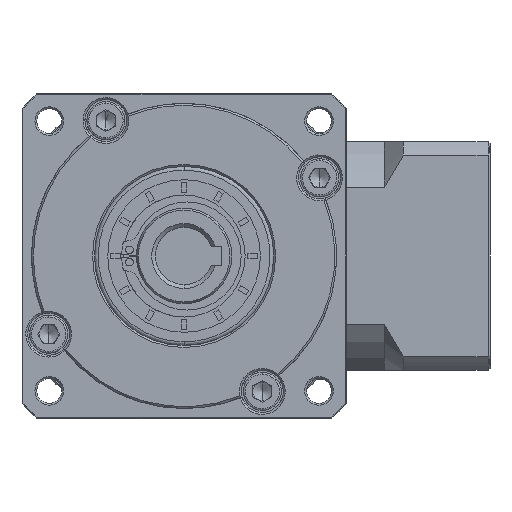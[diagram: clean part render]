
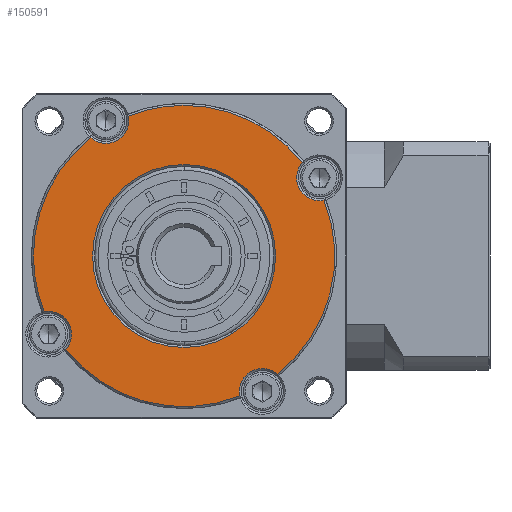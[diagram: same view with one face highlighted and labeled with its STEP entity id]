
A CAD part, left-side view. The second image highlights one B-rep face of the part: STEP entity #150591.
In plain terms, the highlighted planar face has unit normal (-1, 0, 0).
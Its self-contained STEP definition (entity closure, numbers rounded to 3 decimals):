
#295 = CIRCLE ( 'NONE', #50551, 39.5 ) ;
#404 = DIRECTION ( 'NONE',  ( 0., 1., 0. ) ) ;
#2433 = DIRECTION ( 'NONE',  ( 1., 0., 0. ) ) ;
#3415 = EDGE_CURVE ( 'NONE', #122488, #144629, #79913, .T. ) ;
#3803 = ORIENTED_EDGE ( 'NONE', *, *, #90186, .T. ) ;
#4569 = CIRCLE ( 'NONE', #17994, 24. ) ;
#5239 = CARTESIAN_POINT ( 'NONE',  ( -83.108, -21.383, -119.695 ) ) ;
#5846 = CARTESIAN_POINT ( 'NONE',  ( -83.108, -6.764, -83. ) ) ;
#6759 = CARTESIAN_POINT ( 'NONE',  ( -83.108, -0.883, -84.188 ) ) ;
#8598 = ORIENTED_EDGE ( 'NONE', *, *, #14218, .T. ) ;
#9233 = ORIENTED_EDGE ( 'NONE', *, *, #156209, .T. ) ;
#10084 = EDGE_CURVE ( 'NONE', #105159, #13395, #96993, .T. ) ;
#10895 = AXIS2_PLACEMENT_3D ( 'NONE', #5239, #95563, #18257 ) ;
#11247 = CARTESIAN_POINT ( 'NONE',  ( -83.108, -21.383, -119.695 ) ) ;
#12804 = VERTEX_POINT ( 'NONE', #53955 ) ;
#13395 = VERTEX_POINT ( 'NONE', #75976 ) ;
#14034 = CARTESIAN_POINT ( 'NONE',  ( -83.108, -58.078, -105.076 ) ) ;
#14049 = CARTESIAN_POINT ( 'NONE',  ( -83.108, 18.117, -119.695 ) ) ;
#14218 = EDGE_CURVE ( 'NONE', #81611, #122488, #149004, .T. ) ;
#16183 = CARTESIAN_POINT ( 'NONE',  ( -83.108, -0.883, -84.188 ) ) ;
#16839 = ORIENTED_EDGE ( 'NONE', *, *, #70298, .F. ) ;
#17994 = AXIS2_PLACEMENT_3D ( 'NONE', #11247, #101526, #24227 ) ;
#18257 = DIRECTION ( 'NONE',  ( 0., -1., 0. ) ) ;
#19253 = EDGE_CURVE ( 'NONE', #13395, #144629, #97629, .T. ) ;
#19788 = DIRECTION ( 'NONE',  ( 0., 0., -1. ) ) ;
#21750 = VERTEX_POINT ( 'NONE', #29072 ) ;
#24227 = DIRECTION ( 'NONE',  ( 0., -1., 0. ) ) ;
#25962 = VERTEX_POINT ( 'NONE', #125134 ) ;
#28557 = EDGE_CURVE ( 'NONE', #105159, #35813, #28982, .T. ) ;
#28853 = CIRCLE ( 'NONE', #82095, 39.5 ) ;
#28982 = CIRCLE ( 'NONE', #68847, 6. ) ;
#29072 = CARTESIAN_POINT ( 'NONE',  ( -83.108, 9.625, -144.165 ) ) ;
#29098 = EDGE_CURVE ( 'NONE', #40029, #12804, #295, .T. ) ;
#29153 = DIRECTION ( 'NONE',  ( 0., 0., -1. ) ) ;
#31024 = AXIS2_PLACEMENT_3D ( 'NONE', #117788, #40527, #130617 ) ;
#31069 = ORIENTED_EDGE ( 'NONE', *, *, #10084, .F. ) ;
#33444 = CARTESIAN_POINT ( 'NONE',  ( -83.108, -56.89, -105.195 ) ) ;
#35509 = CIRCLE ( 'NONE', #46092, 6. ) ;
#35693 = CARTESIAN_POINT ( 'NONE',  ( -83.108, -41.883, -155.202 ) ) ;
#35813 = VERTEX_POINT ( 'NONE', #161754 ) ;
#36277 = FACE_OUTER_BOUND ( 'NONE', #73748, .T. ) ;
#37088 = DIRECTION ( 'NONE',  ( 1., 0., 0. ) ) ;
#37400 = VERTEX_POINT ( 'NONE', #112506 ) ;
#39237 = EDGE_LOOP ( 'NONE', ( #3803, #139623 ) ) ;
#39755 = CARTESIAN_POINT ( 'NONE',  ( -83.108, -52.391, -95.225 ) ) ;
#40029 = VERTEX_POINT ( 'NONE', #14049 ) ;
#40527 = DIRECTION ( 'NONE',  ( 1., 0., 0. ) ) ;
#42582 = EDGE_CURVE ( 'NONE', #130841, #21750, #66112, .T. ) ;
#43374 = VERTEX_POINT ( 'NONE', #106322 ) ;
#46092 = AXIS2_PLACEMENT_3D ( 'NONE', #35693, #125820, #48682 ) ;
#46220 = AXIS2_PLACEMENT_3D ( 'NONE', #114369, #37088, #127221 ) ;
#46622 = DIRECTION ( 'NONE',  ( 1., 0., 0. ) ) ;
#48401 = EDGE_CURVE ( 'NONE', #130841, #115650, #35509, .T. ) ;
#48682 = DIRECTION ( 'NONE',  ( 0., 0., -1. ) ) ;
#50551 = AXIS2_PLACEMENT_3D ( 'NONE', #136146, #59061, #149136 ) ;
#51045 = CARTESIAN_POINT ( 'NONE',  ( -83.108, -21.383, -119.695 ) ) ;
#52140 = CIRCLE ( 'NONE', #162828, 39.5 ) ;
#53955 = CARTESIAN_POINT ( 'NONE',  ( -83.108, 3.087, -88.687 ) ) ;
#55172 = AXIS2_PLACEMENT_3D ( 'NONE', #140403, #63366, #153384 ) ;
#57120 = DIRECTION ( 'NONE',  ( 1., 0., 0. ) ) ;
#59061 = DIRECTION ( 'NONE',  ( 1., 0., 0. ) ) ;
#60695 = ORIENTED_EDGE ( 'NONE', *, *, #114846, .T. ) ;
#62396 = AXIS2_PLACEMENT_3D ( 'NONE', #134249, #57120, #147196 ) ;
#63366 = DIRECTION ( 'NONE',  ( 1., 0., 0. ) ) ;
#64027 = DIRECTION ( 'NONE',  ( 0., 0., -1. ) ) ;
#64527 = EDGE_CURVE ( 'NONE', #25962, #40029, #52140, .T. ) ;
#66112 = CIRCLE ( 'NONE', #62396, 39.5 ) ;
#68847 = AXIS2_PLACEMENT_3D ( 'NONE', #6759, #97107, #19788 ) ;
#70263 = ORIENTED_EDGE ( 'NONE', *, *, #19253, .F. ) ;
#70298 = EDGE_CURVE ( 'NONE', #81611, #115650, #28853, .T. ) ;
#70328 = CARTESIAN_POINT ( 'NONE',  ( -83.108, -56.89, -99.195 ) ) ;
#70656 = FACE_BOUND ( 'NONE', #39237, .T. ) ;
#71295 = ORIENTED_EDGE ( 'NONE', *, *, #64527, .F. ) ;
#72069 = ORIENTED_EDGE ( 'NONE', *, *, #48401, .T. ) ;
#73284 = ORIENTED_EDGE ( 'NONE', *, *, #28557, .T. ) ;
#73748 = EDGE_LOOP ( 'NONE', ( #31069, #73284, #60695, #124503, #71295, #9233, #137065, #72069, #16839, #8598, #75087, #70263 ) ) ;
#75087 = ORIENTED_EDGE ( 'NONE', *, *, #3415, .T. ) ;
#75976 = CARTESIAN_POINT ( 'NONE',  ( -83.108, -21.383, -80.195 ) ) ;
#76483 = PLANE ( 'NONE',  #126189 ) ;
#77803 = DIRECTION ( 'NONE',  ( 1., 0., 0. ) ) ;
#79864 = CARTESIAN_POINT ( 'NONE',  ( -83.108, -21.383, -119.695 ) ) ;
#79913 = CIRCLE ( 'NONE', #149871, 6. ) ;
#79999 = AXIS2_PLACEMENT_3D ( 'NONE', #79864, #2433, #92753 ) ;
#81611 = VERTEX_POINT ( 'NONE', #14034 ) ;
#82095 = AXIS2_PLACEMENT_3D ( 'NONE', #123793, #46622, #136658 ) ;
#83350 = DIRECTION ( 'NONE',  ( 0., 0., -1. ) ) ;
#83669 = AXIS2_PLACEMENT_3D ( 'NONE', #16183, #106419, #29153 ) ;
#90186 = EDGE_CURVE ( 'NONE', #43374, #37400, #4569, .T. ) ;
#92753 = DIRECTION ( 'NONE',  ( 0., 0., 1. ) ) ;
#95563 = DIRECTION ( 'NONE',  ( 1., 0., 0. ) ) ;
#96993 = CIRCLE ( 'NONE', #79999, 39.5 ) ;
#97107 = DIRECTION ( 'NONE',  ( 1., 0., 0. ) ) ;
#97629 = CIRCLE ( 'NONE', #55172, 39.5 ) ;
#101526 = DIRECTION ( 'NONE',  ( 1., 0., 0. ) ) ;
#105159 = VERTEX_POINT ( 'NONE', #5846 ) ;
#106322 = CARTESIAN_POINT ( 'NONE',  ( -83.108, -45.383, -119.695 ) ) ;
#106419 = DIRECTION ( 'NONE',  ( 1., 0., 0. ) ) ;
#112506 = CARTESIAN_POINT ( 'NONE',  ( -83.108, 2.617, -119.695 ) ) ;
#114369 = CARTESIAN_POINT ( 'NONE',  ( -83.108, 14.124, -140.195 ) ) ;
#114846 = EDGE_CURVE ( 'NONE', #35813, #12804, #153848, .T. ) ;
#115650 = VERTEX_POINT ( 'NONE', #139818 ) ;
#117788 = CARTESIAN_POINT ( 'NONE',  ( -83.108, -56.89, -99.195 ) ) ;
#122488 = VERTEX_POINT ( 'NONE', #33444 ) ;
#123793 = CARTESIAN_POINT ( 'NONE',  ( -83.108, -21.383, -119.695 ) ) ;
#124503 = ORIENTED_EDGE ( 'NONE', *, *, #29098, .F. ) ;
#125134 = CARTESIAN_POINT ( 'NONE',  ( -83.108, 15.312, -134.314 ) ) ;
#125820 = DIRECTION ( 'NONE',  ( 1., 0., 0. ) ) ;
#126189 = AXIS2_PLACEMENT_3D ( 'NONE', #51045, #141079, #64027 ) ;
#127221 = DIRECTION ( 'NONE',  ( 0., 0., -1. ) ) ;
#129913 = CIRCLE ( 'NONE', #46220, 6. ) ;
#130617 = DIRECTION ( 'NONE',  ( 0., 0., -1. ) ) ;
#130841 = VERTEX_POINT ( 'NONE', #163155 ) ;
#134249 = CARTESIAN_POINT ( 'NONE',  ( -83.108, -21.383, -119.695 ) ) ;
#136146 = CARTESIAN_POINT ( 'NONE',  ( -83.108, -21.383, -119.695 ) ) ;
#136658 = DIRECTION ( 'NONE',  ( 0., 0., 1. ) ) ;
#137065 = ORIENTED_EDGE ( 'NONE', *, *, #42582, .F. ) ;
#139145 = CIRCLE ( 'NONE', #10895, 24. ) ;
#139623 = ORIENTED_EDGE ( 'NONE', *, *, #152228, .T. ) ;
#139818 = CARTESIAN_POINT ( 'NONE',  ( -83.108, -45.853, -150.703 ) ) ;
#140403 = CARTESIAN_POINT ( 'NONE',  ( -83.108, -21.383, -119.695 ) ) ;
#141079 = DIRECTION ( 'NONE',  ( -1., 0., 0. ) ) ;
#144629 = VERTEX_POINT ( 'NONE', #39755 ) ;
#147196 = DIRECTION ( 'NONE',  ( 0., 0., 1. ) ) ;
#149004 = CIRCLE ( 'NONE', #31024, 6. ) ;
#149136 = DIRECTION ( 'NONE',  ( 0., 1., 0. ) ) ;
#149871 = AXIS2_PLACEMENT_3D ( 'NONE', #70328, #160350, #83350 ) ;
#150591 = ADVANCED_FACE ( 'NONE', ( #36277, #70656 ), #76483, .T. ) ;
#152228 = EDGE_CURVE ( 'NONE', #37400, #43374, #139145, .T. ) ;
#153384 = DIRECTION ( 'NONE',  ( 0., 0., 1. ) ) ;
#153848 = CIRCLE ( 'NONE', #83669, 6. ) ;
#154777 = CARTESIAN_POINT ( 'NONE',  ( -83.108, -21.383, -119.695 ) ) ;
#156209 = EDGE_CURVE ( 'NONE', #25962, #21750, #129913, .T. ) ;
#160350 = DIRECTION ( 'NONE',  ( 1., 0., 0. ) ) ;
#161754 = CARTESIAN_POINT ( 'NONE',  ( -83.108, -0.883, -90.188 ) ) ;
#162828 = AXIS2_PLACEMENT_3D ( 'NONE', #154777, #77803, #404 ) ;
#163155 = CARTESIAN_POINT ( 'NONE',  ( -83.108, -36.002, -156.39 ) ) ;
